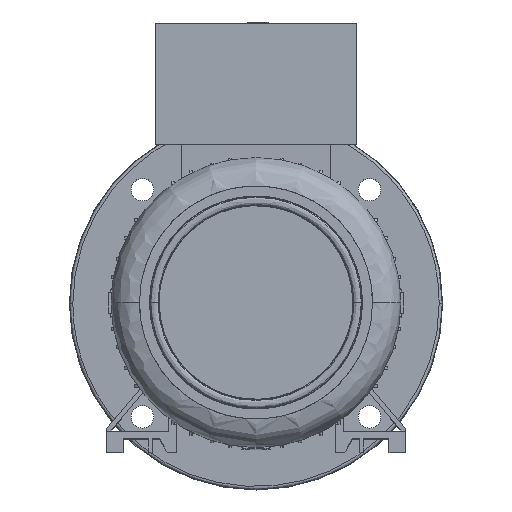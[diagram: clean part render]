
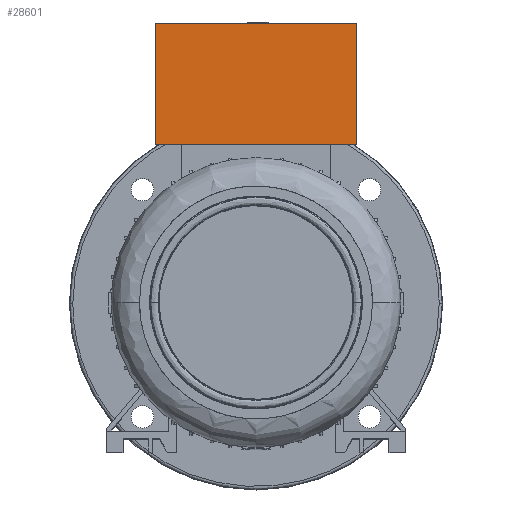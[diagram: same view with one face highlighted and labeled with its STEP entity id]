
A CAD part, top view. The second image highlights one B-rep face of the part: STEP entity #28601.
In plain terms, the highlighted planar face has unit normal (0, 0, 1).
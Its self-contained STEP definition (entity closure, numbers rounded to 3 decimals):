
#391 = LINE ( 'NONE', #14805, #24344 ) ;
#800 = CARTESIAN_POINT ( 'NONE',  ( -67.5, 187., 41.5 ) ) ;
#917 = VERTEX_POINT ( 'NONE', #4100 ) ;
#2475 = EDGE_CURVE ( 'NONE', #20183, #917, #391, .T. ) ;
#4100 = CARTESIAN_POINT ( 'NONE',  ( 67.5, 106., 41.5 ) ) ;
#4926 = LINE ( 'NONE', #800, #18573 ) ;
#5331 = ORIENTED_EDGE ( 'NONE', *, *, #10393, .F. ) ;
#5983 = VERTEX_POINT ( 'NONE', #8815 ) ;
#6748 = DIRECTION ( 'NONE',  ( 0., 0., 1. ) ) ;
#8557 = FACE_OUTER_BOUND ( 'NONE', #10023, .T. ) ;
#8716 = CARTESIAN_POINT ( 'NONE',  ( -67.5, -84.919, 41.5 ) ) ;
#8815 = CARTESIAN_POINT ( 'NONE',  ( -67.5, 187., 41.5 ) ) ;
#9120 = ORIENTED_EDGE ( 'NONE', *, *, #15834, .F. ) ;
#9800 = CARTESIAN_POINT ( 'NONE',  ( -67.5, 106., 41.5 ) ) ;
#10023 = EDGE_LOOP ( 'NONE', ( #9120, #15454, #5331, #29840 ) ) ;
#10393 = EDGE_CURVE ( 'NONE', #26451, #917, #25675, .T. ) ;
#11160 = DIRECTION ( 'NONE',  ( 0., 1., 0. ) ) ;
#13115 = LINE ( 'NONE', #8716, #25504 ) ;
#14205 = CARTESIAN_POINT ( 'NONE',  ( 67.5, 187., 41.5 ) ) ;
#14805 = CARTESIAN_POINT ( 'NONE',  ( 0., 106., 41.5 ) ) ;
#15454 = ORIENTED_EDGE ( 'NONE', *, *, #2475, .T. ) ;
#15834 = EDGE_CURVE ( 'NONE', #20183, #5983, #13115, .T. ) ;
#16974 = VECTOR ( 'NONE', #17979, 1000. ) ;
#17098 = DIRECTION ( 'NONE',  ( 1., 0., 0. ) ) ;
#17860 = CARTESIAN_POINT ( 'NONE',  ( 67.5, -84.919, 41.5 ) ) ;
#17979 = DIRECTION ( 'NONE',  ( 0., -1., 0. ) ) ;
#18573 = VECTOR ( 'NONE', #19641, 1000. ) ;
#19373 = EDGE_CURVE ( 'NONE', #5983, #26451, #4926, .T. ) ;
#19641 = DIRECTION ( 'NONE',  ( 1., 0., 0. ) ) ;
#20183 = VERTEX_POINT ( 'NONE', #9800 ) ;
#22806 = AXIS2_PLACEMENT_3D ( 'NONE', #32928, #6748, #30651 ) ;
#24344 = VECTOR ( 'NONE', #17098, 1000. ) ;
#25022 = PLANE ( 'NONE',  #22806 ) ;
#25504 = VECTOR ( 'NONE', #11160, 1000. ) ;
#25675 = LINE ( 'NONE', #17860, #16974 ) ;
#26451 = VERTEX_POINT ( 'NONE', #14205 ) ;
#28601 = ADVANCED_FACE ( 'NONE', ( #8557 ), #25022, .T. ) ;
#29840 = ORIENTED_EDGE ( 'NONE', *, *, #19373, .F. ) ;
#30651 = DIRECTION ( 'NONE',  ( 1., 0., 0. ) ) ;
#32928 = CARTESIAN_POINT ( 'NONE',  ( -67.5, -84.919, 41.5 ) ) ;
